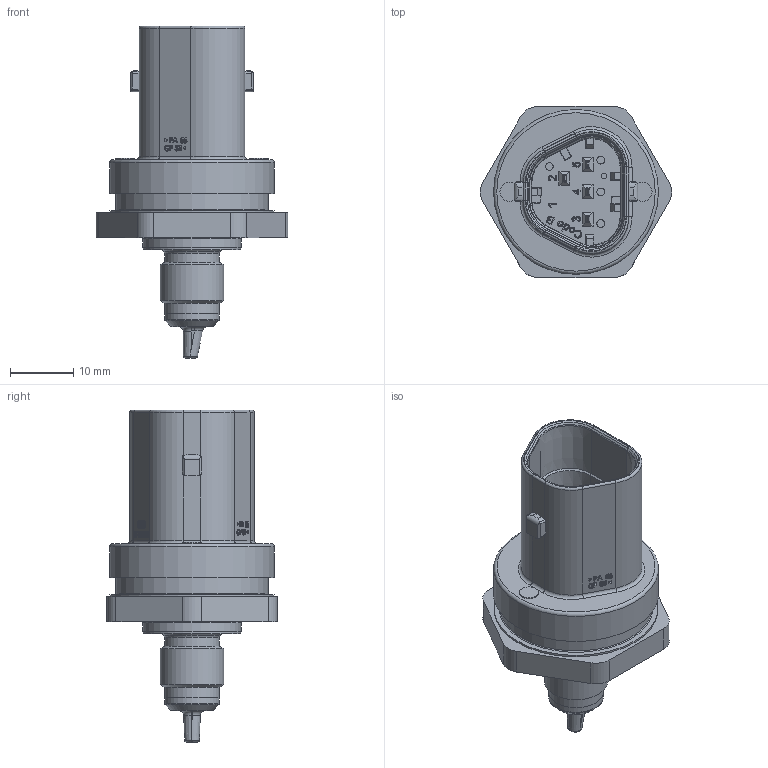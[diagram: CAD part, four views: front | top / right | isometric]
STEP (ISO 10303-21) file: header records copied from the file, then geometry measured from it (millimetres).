
FILE_DESCRIPTION(/* description */ (''),/* implementation_level */ '2;1');
FILE_NAME(/* name */ 'PST-F1.stp',/* time_stamp */ '2024-06-26T07:14:50+02:00',/* author */ (''),/* organization */ (''),/* preprocessor_version */ 'ST-DEVELOPER v19.4',/* originating_system */ 'SIEMENS PLM Software NX2306.5001',/* authorisation */ '');
FILE_SCHEMA (('AUTOMOTIVE_DESIGN { 1 0 10303 214 3 1 1 1 }'));
Length unit declared in the file: millimetre
Products named in the file (1): PST-F1
Bounding box: 30.25 x 27 x 52.39 mm (x, y, z)
Volume: 9459.3 mm3; surface area: 5475.5 mm2
Topology: 1 solids, 1 shells, 1079 faces, 2816 edges, 1814 vertices
Faces by surface type: plane 686, cylinder 257, torus 82, cone 23, extrusion 22, bspline 9
Full cylindrical faces by diameter (mm): 0.9 x1, 1 x2, 1.1 x1, 1.2 x4, 3 x2, 8.62 x1, 8.66 x2, 10 x1, 15.46 x1, 15.5 x1, 24 x1, 25.925 x1, 26 x1
Entity records: 41090 total; most frequent: CARTESIAN_POINT 9248, ORIENTED_EDGE 5556, DIRECTION 4206, EDGE_CURVE 2778, VERTEX_POINT 1806, VECTOR 1562, LINE 1540, AXIS2_PLACEMENT_3D 1322
